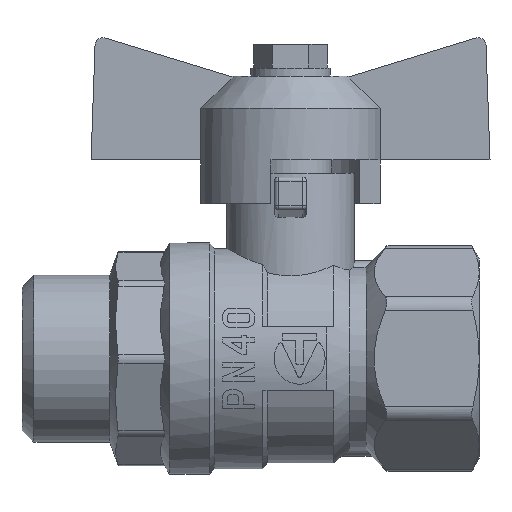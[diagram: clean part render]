
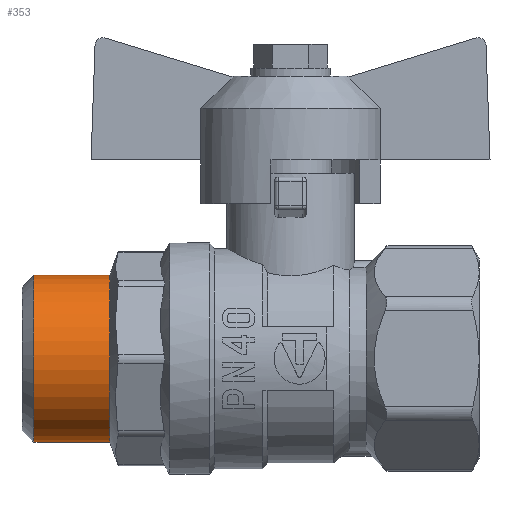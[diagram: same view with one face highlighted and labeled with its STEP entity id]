
A CAD part, front view. The second image highlights one B-rep face of the part: STEP entity #353.
In plain terms, the highlighted cylindrical face has radius 10.477 mm (diameter 20.955 mm), a full revolution.
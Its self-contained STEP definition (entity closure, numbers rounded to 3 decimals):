
#353=ADVANCED_FACE('',(#2630,#2632),#2634,.T.);
#2630=FACE_OUTER_BOUND('',#2631,.T.);
#2631=EDGE_LOOP('',(#4239));
#2632=FACE_OUTER_BOUND('',#2633,.T.);
#2633=EDGE_LOOP('',(#4240));
#2634=CYLINDRICAL_SURFACE('',#2635,10.478);
#2635=AXIS2_PLACEMENT_3D('',#2636,#2637,#2638);
#2636=CARTESIAN_POINT('',(-32.15,0.,0.));
#2637=DIRECTION('',(1.,0.,0.));
#2638=DIRECTION('',(0.,0.383,0.924));
#4239=ORIENTED_EDGE('',*,*,#5027,.F.);
#4240=ORIENTED_EDGE('',*,*,#5029,.T.);
#5027=EDGE_CURVE('',#6319,#6319,#6320,.T.);
#5029=EDGE_CURVE('',#6323,#6323,#6324,.T.);
#6319=VERTEX_POINT('',#13096);
#6320=CIRCLE('',#13097,10.478);
#6323=VERTEX_POINT('',#13106);
#6324=CIRCLE('',#13107,10.478);
#13096=CARTESIAN_POINT('',(-22.65,4.01,9.68));
#13097=AXIS2_PLACEMENT_3D('',#13098,#13099,#13100);
#13098=CARTESIAN_POINT('',(-22.65,0.,0.));
#13099=DIRECTION('',(1.,0.,0.));
#13100=DIRECTION('',(0.,0.383,0.924));
#13106=CARTESIAN_POINT('',(-32.15,4.01,9.68));
#13107=AXIS2_PLACEMENT_3D('',#13108,#13109,#13110);
#13108=CARTESIAN_POINT('',(-32.15,0.,0.));
#13109=DIRECTION('',(1.,0.,0.));
#13110=DIRECTION('',(0.,0.383,0.924));
